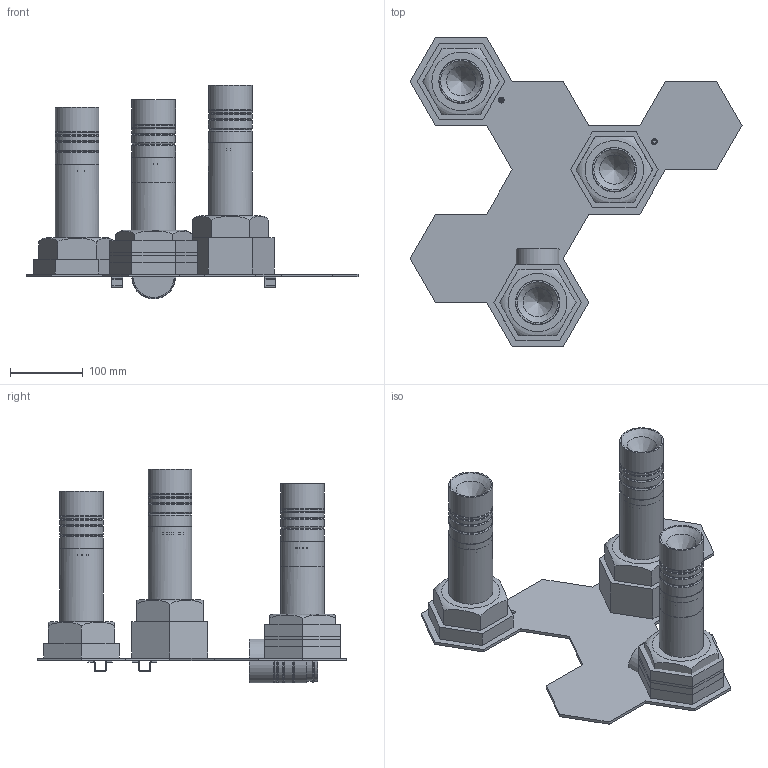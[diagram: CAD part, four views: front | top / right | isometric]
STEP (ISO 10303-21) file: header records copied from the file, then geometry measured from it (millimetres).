
FILE_DESCRIPTION( ( 'STEP AP203' ), '1' );
FILE_NAME( '//srvbf/BF Disegni/ARRIGHI FRANCESCA/DADO/DADO-A3 Applique DADO.stp', '2020-10-15T06:36:13', ( ' ' ), ( ' ' ), 'XStep 1.0', ' ', ' ' );
FILE_SCHEMA( ( 'CONFIG_CONTROL_DESIGN) ( )' ) );
Length unit declared in the file: metre
Products named in the file (11): Assem1; Assem2; 1; 2; 3; 4; 5; 6; 7; 8; 9
Bounding box: 455 x 424.35 x 292.94 mm (x, y, z)
Volume: 4511134.6 mm3; surface area: 1159785 mm2
Topology: 32 solids, 32 shells, 502 faces, 1279 edges, 841 vertices
Faces by surface type: plane 306, cylinder 139, cone 45, torus 8, bspline 4
Full cylindrical faces by diameter (mm): 2 x7, 5 x9, 10 x4, 11 x15, 54.37 x4, 55.969 x8, 57 x4, 59.967 x20, 60 x4, 61 x4
Entity records: 4507 total; most frequent: CARTESIAN_POINT 932, DIRECTION 648, ORIENTED_EDGE 560, EDGE_CURVE 280, AXIS2_PLACEMENT_3D 225, VERTEX_POINT 205, LINE 198, VECTOR 198
